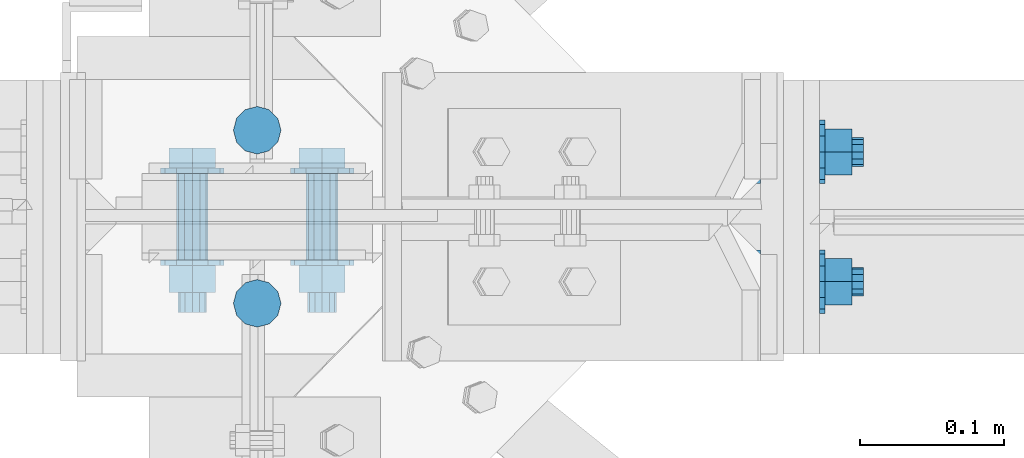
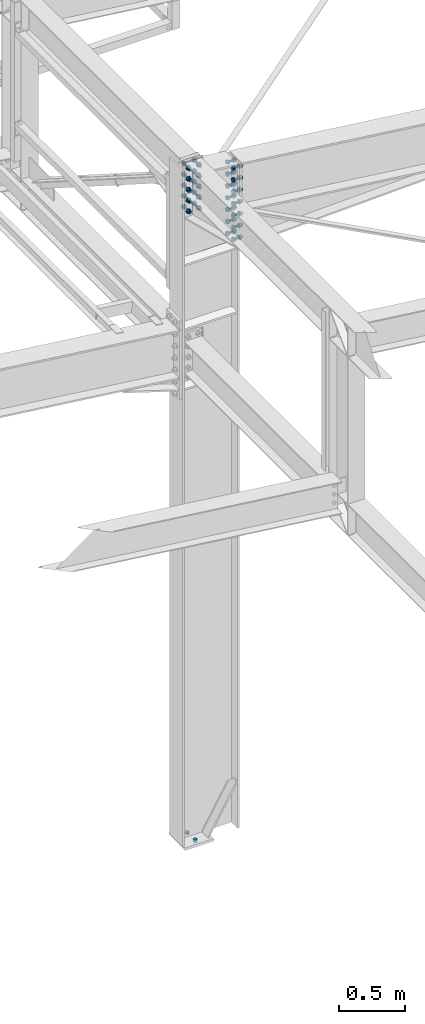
# One storey, part 153 of 3134: 3 mechanical fasteners, 3 elements without a shape of their own.
"""IFC2X3 building model written with IfcOpenShell, lengths in millimetres."""

from ifc_helpers import new_model, si_unit, frame, origin_with_axes, place, context, subcontext, project, spatial, faceted_brep, source, transform, mapped, material, type_object, element, aggregate, save


model = new_model("IFC2X3")

# Units and contexts
model_context = context("Model", 3, precision=1e-05, world=origin_with_axes())
body_context = subcontext(model_context, "Body", "Model", "MODEL_VIEW")
ifc_project = project(units=[si_unit("LENGTHUNIT", "METRE", prefix="MILLI"), si_unit("AREAUNIT", "SQUARE_METRE"), si_unit("VOLUMEUNIT", "CUBIC_METRE"), si_unit("MASSUNIT", "GRAM", prefix="KILO"), si_unit("TIMEUNIT", "SECOND"), si_unit("PLANEANGLEUNIT", "RADIAN"), si_unit("SOLIDANGLEUNIT", "STERADIAN"), si_unit("THERMODYNAMICTEMPERATUREUNIT", "DEGREE_CELSIUS"), si_unit("LUMINOUSINTENSITYUNIT", "LUMEN")], contexts=[model_context])

# Site, building, storey
site_placement = place(None, origin_with_axes())
site = spatial("IfcSite", under=ifc_project, at=site_placement, CompositionType="ELEMENT")
building_placement = place(site_placement, origin_with_axes())
building = spatial("IfcBuilding", under=site, at=building_placement, Name="Undefined", CompositionType="ELEMENT")
storey_placement = place(building_placement, origin_with_axes())
storey = spatial("IfcBuildingStorey", under=building, at=storey_placement, Name="Undefined", CompositionType="ELEMENT", Elevation=0.0)

# Assembly, mechanical fastener
assembly_1_placement = place(storey_placement, origin_with_axes())
assembly_1 = element("IfcElementAssembly", 1, at=assembly_1_placement, inside=storey, Name="IPE450", AssemblyPlace="NOTDEFINED", PredefinedType="RIGID_FRAME")
ifc_material_1 = material(Name="HR10.9")
mechanical_fastener_type = type_object("IfcMechanicalFastenerType", Name="Bolt assembly")
shared_shape_1 = source(origin_with_axes(), body_context, "Body", "Brep", [
    faceted_brep([(18.475208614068, -33.599999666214, 0.0), (9.23760430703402, -33.599999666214, 16.0), (-9.23760430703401, -33.599999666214, 16.0), (-18.475208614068, -33.599999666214, 2.2625605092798e-15), (-9.23760430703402, -33.599999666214, -16.0), (9.237604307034, -33.599999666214, -16.0), (9.237604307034, -19.7000000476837, -16.0), (-9.23760430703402, -19.7000000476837, -16.0), (-18.475208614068, -19.7000000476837, 2.2625605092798e-15), (-9.23760430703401, -19.7000000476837, 16.0), (9.23760430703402, -19.7000000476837, 16.0), (18.475208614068, -19.7000000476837, 0.0), (10.0, -19.7000000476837, 0.0), (8.66025403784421, -19.7000000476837, 5.0000000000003), (4.9999999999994, -19.7000000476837, 8.66025403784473), (-1.03633598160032e-12, -19.7000000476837, 10.0), (-5.00000000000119, -19.7000000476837, 8.6602540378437), (-8.66025403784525, -19.7000000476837, 4.99999999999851), (-10.0, -19.7000000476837, -2.07267196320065e-12), (-8.66025403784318, -19.7000000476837, -5.00000000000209), (-4.99999999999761, -19.7000000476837, -8.66025403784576), (3.09790571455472e-12, -19.7000000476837, -10.0), (5.00000000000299, -19.7000000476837, -8.66025403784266), (8.66025403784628, -19.7000000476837, -4.99999999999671), (8.66025403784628, 55.2999999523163, -4.99999999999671), (5.00000000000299, 55.2999999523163, -8.66025403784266), (3.09790571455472e-12, 55.2999999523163, -10.0), (-4.99999999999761, 55.2999999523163, -8.66025403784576), (-8.66025403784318, 55.2999999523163, -5.00000000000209), (-10.0, 55.2999999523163, -2.07267196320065e-12), (-8.66025403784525, 55.2999999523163, 4.99999999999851), (-5.00000000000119, 55.2999999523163, 8.6602540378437), (-1.03633598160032e-12, 55.2999999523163, 10.0), (4.9999999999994, 55.2999999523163, 8.66025403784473), (8.66025403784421, 55.2999999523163, 5.0000000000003), (10.0, 55.2999999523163, 0.0), (22.0, -19.7000000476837, 0.0), (19.0525588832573, -19.7000000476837, 11.0000000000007), (10.9999999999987, -19.7000000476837, 19.0525588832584), (-2.27993915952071e-12, -19.7000000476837, 22.0), (-11.0000000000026, -19.7000000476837, 19.0525588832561), (-19.0525588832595, -19.7000000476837, 10.9999999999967), (-22.0, -19.7000000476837, -4.55987831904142e-12), (-19.052558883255, -19.7000000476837, -11.0000000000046), (-10.9999999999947, -19.7000000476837, -19.0525588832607), (6.81539257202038e-12, -19.7000000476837, -22.0), (11.0000000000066, -19.7000000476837, -19.0525588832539), (19.0525588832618, -19.7000000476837, -10.9999999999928), (19.0525588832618, -16.0, -10.9999999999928), (11.0000000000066, -16.0, -19.0525588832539), (6.81539257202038e-12, -16.0, -22.0), (-10.9999999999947, -16.0, -19.0525588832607), (-19.052558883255, -16.0, -11.0000000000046), (-22.0, -16.0, -4.55987831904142e-12), (-19.0525588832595, -16.0, 10.9999999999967), (-11.0000000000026, -16.0, 19.0525588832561), (-2.27993915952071e-12, -16.0, 22.0), (10.9999999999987, -16.0, 19.0525588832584), (19.0525588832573, -16.0, 11.0000000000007), (22.0, -16.0, 0.0), (22.0, 25.0, 0.0), (19.0525588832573, 25.0, 11.0000000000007), (10.9999999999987, 25.0, 19.0525588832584), (-2.27993915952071e-12, 25.0, 22.0), (-11.0000000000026, 25.0, 19.0525588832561), (-19.0525588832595, 25.0, 10.9999999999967), (-22.0, 25.0, -4.55987831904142e-12), (-19.052558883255, 25.0, -11.0000000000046), (-10.9999999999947, 25.0, -19.0525588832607), (6.81539257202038e-12, 25.0, -22.0), (11.0000000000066, 25.0, -19.0525588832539), (19.0525588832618, 25.0, -10.9999999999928), (19.0525588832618, 28.7000000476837, -10.9999999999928), (11.0000000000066, 28.7000000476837, -19.0525588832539), (6.81539257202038e-12, 28.7000000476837, -22.0), (-10.9999999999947, 28.7000000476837, -19.0525588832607), (-19.052558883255, 28.7000000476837, -11.0000000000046), (-22.0, 28.7000000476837, -4.55987831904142e-12), (-19.0525588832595, 28.7000000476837, 10.9999999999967), (-11.0000000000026, 28.7000000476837, 19.0525588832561), (-2.27993915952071e-12, 28.7000000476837, 22.0), (10.9999999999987, 28.7000000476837, 19.0525588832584), (19.0525588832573, 28.7000000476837, 11.0000000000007), (22.0, 28.7000000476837, 0.0), (18.475208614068, 28.7000000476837, 0.0), (9.23760430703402, 28.7000000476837, 16.0), (-9.23760430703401, 28.7000000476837, 16.0), (-18.475208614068, 28.7000000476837, 2.2625605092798e-15), (-9.23760430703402, 28.7000000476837, -16.0), (9.237604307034, 28.7000000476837, -16.0), (9.237604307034, 47.2499992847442, -16.0), (-9.23760430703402, 47.2499992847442, -16.0), (-18.475208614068, 47.2499992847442, 2.2625605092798e-15), (-9.23760430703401, 47.2499992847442, 16.0), (9.23760430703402, 47.2499992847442, 16.0), (18.475208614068, 47.2499992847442, 0.0)], [[[0, 1, 2, 3, 4, 5]], [[6, 7, 8, 9, 10, 11]], [[0, 11, 10, 1]], [[1, 10, 9, 2]], [[2, 9, 8, 3]], [[3, 8, 7, 4]], [[4, 7, 6, 5]], [[5, 6, 11, 0]], [[12, 13, 14, 15, 16, 17, 18, 19, 20, 21, 22, 23]], [[24, 25, 26, 27, 28, 29, 30, 31, 32, 33, 34, 35]], [[12, 35, 34, 13]], [[13, 34, 33, 14]], [[14, 33, 32, 15]], [[15, 32, 31, 16]], [[16, 31, 30, 17]], [[17, 30, 29, 18]], [[18, 29, 28, 19]], [[19, 28, 27, 20]], [[20, 27, 26, 21]], [[21, 26, 25, 22]], [[22, 25, 24, 23]], [[23, 24, 35, 12]], [[36, 37, 38, 39, 40, 41, 42, 43, 44, 45, 46, 47]], [[48, 49, 50, 51, 52, 53, 54, 55, 56, 57, 58, 59]], [[36, 59, 58, 37]], [[37, 58, 57, 38]], [[38, 57, 56, 39]], [[39, 56, 55, 40]], [[40, 55, 54, 41]], [[41, 54, 53, 42]], [[42, 53, 52, 43]], [[43, 52, 51, 44]], [[44, 51, 50, 45]], [[45, 50, 49, 46]], [[46, 49, 48, 47]], [[47, 48, 59, 36]], [[60, 61, 62, 63, 64, 65, 66, 67, 68, 69, 70, 71]], [[72, 73, 74, 75, 76, 77, 78, 79, 80, 81, 82, 83]], [[60, 83, 82, 61]], [[61, 82, 81, 62]], [[62, 81, 80, 63]], [[63, 80, 79, 64]], [[64, 79, 78, 65]], [[65, 78, 77, 66]], [[66, 77, 76, 67]], [[67, 76, 75, 68]], [[68, 75, 74, 69]], [[69, 74, 73, 70]], [[70, 73, 72, 71]], [[71, 72, 83, 60]], [[84, 85, 86, 87, 88, 89]], [[90, 91, 92, 93, 94, 95]], [[84, 95, 94, 85]], [[85, 94, 93, 86]], [[86, 93, 92, 87]], [[87, 92, 91, 88]], [[88, 91, 90, 89]], [[89, 90, 95, 84]]]),
    faceted_brep([(11.0, -15.9, 0.0), (9.52627944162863, -15.9, 5.50000000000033), (5.49999999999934, -15.9, 9.5262794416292), (-1.13996957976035e-12, -15.9, 11.0), (-5.50000000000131, -15.9, 9.52627944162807), (-9.52627944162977, -15.9, 5.49999999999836), (-11.0, -15.9, -2.27993915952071e-12), (-9.5262794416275, -15.9, -5.5000000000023), (-5.49999999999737, -15.9, -9.52627944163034), (3.40769628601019e-12, -15.9, -11.0), (5.50000000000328, -15.9, -9.52627944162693), (9.52627944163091, -15.9, -5.49999999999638), (9.52627944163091, 0.0999999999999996, -5.49999999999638), (5.50000000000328, 0.0999999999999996, -9.52627944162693), (3.40769628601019e-12, 0.0999999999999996, -11.0), (-5.49999999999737, 0.0999999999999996, -9.52627944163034), (-9.5262794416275, 0.0999999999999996, -5.5000000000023), (-11.0, 0.0999999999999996, -2.27993915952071e-12), (-9.52627944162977, 0.0999999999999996, 5.49999999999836), (-5.50000000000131, 0.0999999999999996, 9.52627944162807), (-1.13996957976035e-12, 0.0999999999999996, 11.0), (5.49999999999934, 0.0999999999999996, 9.5262794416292), (9.52627944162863, 0.0999999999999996, 5.50000000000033), (11.0, 0.0999999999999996, 0.0), (11.0, -0.1, 0.0), (9.52627944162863, -0.1, 5.50000000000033), (5.49999999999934, -0.1, 9.5262794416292), (-1.13996957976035e-12, -0.1, 11.0), (-5.50000000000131, -0.1, 9.52627944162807), (-9.52627944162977, -0.1, 5.49999999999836), (-11.0, -0.1, -2.27993915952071e-12), (-9.5262794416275, -0.1, -5.5000000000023), (-5.49999999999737, -0.1, -9.52627944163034), (3.40769628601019e-12, -0.1, -11.0), (5.50000000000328, -0.1, -9.52627944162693), (9.52627944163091, -0.1, -5.49999999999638), (9.52627944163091, 25.0, -5.49999999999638), (5.50000000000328, 25.0, -9.52627944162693), (3.40769628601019e-12, 25.0, -11.0), (-5.49999999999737, 25.0, -9.52627944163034), (-9.5262794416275, 25.0, -5.5000000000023), (-11.0, 25.0, -2.27993915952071e-12), (-9.52627944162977, 25.0, 5.49999999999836), (-5.50000000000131, 25.0, 9.52627944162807), (-1.13996957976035e-12, 25.0, 11.0), (5.49999999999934, 25.0, 9.5262794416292), (9.52627944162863, 25.0, 5.50000000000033), (11.0, 25.0, 0.0)], [[[0, 1, 2, 3, 4, 5, 6, 7, 8, 9, 10, 11]], [[12, 13, 14, 15, 16, 17, 18, 19, 20, 21, 22, 23]], [[0, 23, 22, 1]], [[1, 22, 21, 2]], [[2, 21, 20, 3]], [[3, 20, 19, 4]], [[4, 19, 18, 5]], [[5, 18, 17, 6]], [[6, 17, 16, 7]], [[7, 16, 15, 8]], [[8, 15, 14, 9]], [[9, 14, 13, 10]], [[10, 13, 12, 11]], [[11, 12, 23, 0]], [[24, 25, 26, 27, 28, 29, 30, 31, 32, 33, 34, 35]], [[36, 37, 38, 39, 40, 41, 42, 43, 44, 45, 46, 47]], [[24, 47, 46, 25]], [[25, 46, 45, 26]], [[26, 45, 44, 27]], [[27, 44, 43, 28]], [[28, 43, 42, 29]], [[29, 42, 41, 30]], [[30, 41, 40, 31]], [[31, 40, 39, 32]], [[32, 39, 38, 33]], [[33, 38, 37, 34]], [[34, 37, 36, 35]], [[35, 36, 47, 24]]]),
])
mechanical_fastener_1_placement = place(assembly_1_placement, frame((56240.0, 19450.0, 5711.36541521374), z_axis=(0.0, -1.0, 0.0), x_axis=(0.0, 0.0, -1.0)))
mechanical_fastener_1 = element("IfcMechanicalFastener", 2, at=mechanical_fastener_1_placement, type_object=mechanical_fastener_type, material=ifc_material_1, Name="Bolt assembly", NominalDiameter=20.0, NominalLength=75.0, context=body_context, shape_type="MappedRepresentation", body=[
    mapped(shared_shape_1, transform((0.0, 0.0, -45.0))),
    mapped(shared_shape_1, transform((0.0, 0.0, 45.0))),
    mapped(shared_shape_1, transform((110.0, 0.0, -45.0))),
    mapped(shared_shape_1, transform((110.0, 0.0, 45.0))),
    mapped(shared_shape_1, transform((220.0, 0.0, -45.0))),
    mapped(shared_shape_1, transform((220.0, 0.0, 45.0))),
    mapped(shared_shape_1, transform((330.0, 0.0, -45.0))),
    mapped(shared_shape_1, transform((330.0, 0.0, 45.0))),
    mapped(shared_shape_1, transform((440.0, 0.0, -45.0))),
    mapped(shared_shape_1, transform((440.0, 0.0, 45.0))),
    mapped(shared_shape_1, transform((550.0, 0.0, -45.0))),
    mapped(shared_shape_1, transform((550.0, 0.0, 45.0))),
    mapped(shared_shape_1, transform((660.0, 0.0, -45.0))),
    mapped(shared_shape_1, transform((660.0, 0.0, 45.0))),
])
aggregate(assembly_1, [mechanical_fastener_1])

assembly_2_placement = place(storey_placement, origin_with_axes())
assembly_2 = element("IfcElementAssembly", 3, at=assembly_2_placement, inside=storey, Name="300", AssemblyPlace="NOTDEFINED", PredefinedType="RIGID_FRAME")
shared_shape_2 = source(origin_with_axes(), body_context, "Body", "Brep", [
    faceted_brep([(18.475208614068, -47.6999994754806, 0.0), (9.23760430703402, -47.6999994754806, 16.0), (-9.23760430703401, -47.6999994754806, 16.0), (-18.475208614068, -47.6999994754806, 2.2625605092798e-15), (-9.23760430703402, -47.6999994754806, -16.0), (9.237604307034, -47.6999994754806, -16.0), (9.237604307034, -33.7999998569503, -16.0), (-9.23760430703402, -33.7999998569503, -16.0), (-18.475208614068, -33.7999998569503, 2.2625605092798e-15), (-9.23760430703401, -33.7999998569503, 16.0), (9.23760430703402, -33.7999998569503, 16.0), (18.475208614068, -33.7999998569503, 0.0), (10.0, -33.7999998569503, 0.0), (8.66025403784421, -33.7999998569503, 5.0000000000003), (4.9999999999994, -33.7999998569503, 8.66025403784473), (-1.03633598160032e-12, -33.7999998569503, 10.0), (-5.00000000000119, -33.7999998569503, 8.6602540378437), (-8.66025403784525, -33.7999998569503, 4.99999999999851), (-10.0, -33.7999998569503, -2.07267196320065e-12), (-8.66025403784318, -33.7999998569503, -5.00000000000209), (-4.99999999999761, -33.7999998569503, -8.66025403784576), (3.09790571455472e-12, -33.7999998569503, -10.0), (5.00000000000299, -33.7999998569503, -8.66025403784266), (8.66025403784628, -33.7999998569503, -4.99999999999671), (8.66025403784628, 66.2000001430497, -4.99999999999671), (5.00000000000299, 66.2000001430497, -8.66025403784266), (3.09790571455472e-12, 66.2000001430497, -10.0), (-4.99999999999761, 66.2000001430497, -8.66025403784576), (-8.66025403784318, 66.2000001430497, -5.00000000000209), (-10.0, 66.2000001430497, -2.07267196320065e-12), (-8.66025403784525, 66.2000001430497, 4.99999999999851), (-5.00000000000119, 66.2000001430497, 8.6602540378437), (-1.03633598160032e-12, 66.2000001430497, 10.0), (4.9999999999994, 66.2000001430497, 8.66025403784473), (8.66025403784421, 66.2000001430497, 5.0000000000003), (10.0, 66.2000001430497, 0.0), (22.0, -33.7999998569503, 0.0), (19.0525588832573, -33.7999998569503, 11.0000000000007), (10.9999999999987, -33.7999998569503, 19.0525588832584), (-2.27993915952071e-12, -33.7999998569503, 22.0), (-11.0000000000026, -33.7999998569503, 19.0525588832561), (-19.0525588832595, -33.7999998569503, 10.9999999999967), (-22.0, -33.7999998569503, -4.55987831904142e-12), (-19.052558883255, -33.7999998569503, -11.0000000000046), (-10.9999999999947, -33.7999998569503, -19.0525588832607), (6.81539257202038e-12, -33.7999998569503, -22.0), (11.0000000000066, -33.7999998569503, -19.0525588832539), (19.0525588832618, -33.7999998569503, -10.9999999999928), (19.0525588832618, -30.0999998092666, -10.9999999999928), (11.0000000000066, -30.0999998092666, -19.0525588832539), (6.81539257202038e-12, -30.0999998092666, -22.0), (-10.9999999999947, -30.0999998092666, -19.0525588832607), (-19.052558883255, -30.0999998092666, -11.0000000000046), (-22.0, -30.0999998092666, -4.55987831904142e-12), (-19.0525588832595, -30.0999998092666, 10.9999999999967), (-11.0000000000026, -30.0999998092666, 19.0525588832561), (-2.27993915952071e-12, -30.0999998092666, 22.0), (10.9999999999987, -30.0999998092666, 19.0525588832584), (19.0525588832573, -30.0999998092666, 11.0000000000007), (22.0, -30.0999998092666, 0.0), (22.0, 30.0999999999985, 0.0), (19.0525588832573, 30.0999999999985, 11.0000000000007), (10.9999999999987, 30.0999999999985, 19.0525588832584), (-2.27993915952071e-12, 30.0999999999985, 22.0), (-11.0000000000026, 30.0999999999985, 19.0525588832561), (-19.0525588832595, 30.0999999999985, 10.9999999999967), (-22.0, 30.0999999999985, -4.55987831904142e-12), (-19.052558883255, 30.0999999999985, -11.0000000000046), (-10.9999999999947, 30.0999999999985, -19.0525588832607), (6.81539257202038e-12, 30.0999999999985, -22.0), (11.0000000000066, 30.0999999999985, -19.0525588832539), (19.0525588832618, 30.0999999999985, -10.9999999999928), (19.0525588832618, 33.8000000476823, -10.9999999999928), (11.0000000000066, 33.8000000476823, -19.0525588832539), (6.81539257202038e-12, 33.8000000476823, -22.0), (-10.9999999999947, 33.8000000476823, -19.0525588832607), (-19.052558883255, 33.8000000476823, -11.0000000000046), (-22.0, 33.8000000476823, -4.55987831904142e-12), (-19.0525588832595, 33.8000000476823, 10.9999999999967), (-11.0000000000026, 33.8000000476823, 19.0525588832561), (-2.27993915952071e-12, 33.8000000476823, 22.0), (10.9999999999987, 33.8000000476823, 19.0525588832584), (19.0525588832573, 33.8000000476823, 11.0000000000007), (22.0, 33.8000000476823, 0.0), (18.475208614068, 33.8000000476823, 0.0), (9.23760430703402, 33.8000000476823, 16.0), (-9.23760430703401, 33.8000000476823, 16.0), (-18.475208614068, 33.8000000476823, 2.2625605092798e-15), (-9.23760430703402, 33.8000000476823, -16.0), (9.237604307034, 33.8000000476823, -16.0), (9.237604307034, 52.3499992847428, -16.0), (-9.23760430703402, 52.3499992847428, -16.0), (-18.475208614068, 52.3499992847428, 2.2625605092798e-15), (-9.23760430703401, 52.3499992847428, 16.0), (9.23760430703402, 52.3499992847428, 16.0), (18.475208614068, 52.3499992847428, 0.0)], [[[0, 1, 2, 3, 4, 5]], [[6, 7, 8, 9, 10, 11]], [[0, 11, 10, 1]], [[1, 10, 9, 2]], [[2, 9, 8, 3]], [[3, 8, 7, 4]], [[4, 7, 6, 5]], [[5, 6, 11, 0]], [[12, 13, 14, 15, 16, 17, 18, 19, 20, 21, 22, 23]], [[24, 25, 26, 27, 28, 29, 30, 31, 32, 33, 34, 35]], [[12, 35, 34, 13]], [[13, 34, 33, 14]], [[14, 33, 32, 15]], [[15, 32, 31, 16]], [[16, 31, 30, 17]], [[17, 30, 29, 18]], [[18, 29, 28, 19]], [[19, 28, 27, 20]], [[20, 27, 26, 21]], [[21, 26, 25, 22]], [[22, 25, 24, 23]], [[23, 24, 35, 12]], [[36, 37, 38, 39, 40, 41, 42, 43, 44, 45, 46, 47]], [[48, 49, 50, 51, 52, 53, 54, 55, 56, 57, 58, 59]], [[36, 59, 58, 37]], [[37, 58, 57, 38]], [[38, 57, 56, 39]], [[39, 56, 55, 40]], [[40, 55, 54, 41]], [[41, 54, 53, 42]], [[42, 53, 52, 43]], [[43, 52, 51, 44]], [[44, 51, 50, 45]], [[45, 50, 49, 46]], [[46, 49, 48, 47]], [[47, 48, 59, 36]], [[60, 61, 62, 63, 64, 65, 66, 67, 68, 69, 70, 71]], [[72, 73, 74, 75, 76, 77, 78, 79, 80, 81, 82, 83]], [[60, 83, 82, 61]], [[61, 82, 81, 62]], [[62, 81, 80, 63]], [[63, 80, 79, 64]], [[64, 79, 78, 65]], [[65, 78, 77, 66]], [[66, 77, 76, 67]], [[67, 76, 75, 68]], [[68, 75, 74, 69]], [[69, 74, 73, 70]], [[70, 73, 72, 71]], [[71, 72, 83, 60]], [[84, 85, 86, 87, 88, 89]], [[90, 91, 92, 93, 94, 95]], [[84, 95, 94, 85]], [[85, 94, 93, 86]], [[86, 93, 92, 87]], [[87, 92, 91, 88]], [[88, 91, 90, 89]], [[89, 90, 95, 84]]]),
    faceted_brep([(11.0, -5.09999980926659, 0.0), (9.52627944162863, -5.09999980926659, 5.50000000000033), (5.49999999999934, -5.09999980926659, 9.5262794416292), (-1.13996957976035e-12, -5.09999980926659, 11.0), (-5.50000000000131, -5.09999980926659, 9.52627944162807), (-9.52627944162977, -5.09999980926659, 5.49999999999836), (-11.0, -5.09999980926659, -2.27993915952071e-12), (-9.5262794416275, -5.09999980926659, -5.5000000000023), (-5.49999999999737, -5.09999980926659, -9.52627944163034), (3.40769628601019e-12, -5.09999980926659, -11.0), (5.50000000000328, -5.09999980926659, -9.52627944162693), (9.52627944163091, -5.09999980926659, -5.49999999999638), (9.52627944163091, 5.09999999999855, -5.49999999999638), (5.50000000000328, 5.09999999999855, -9.52627944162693), (3.40769628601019e-12, 5.09999999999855, -11.0), (-5.49999999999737, 5.09999999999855, -9.52627944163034), (-9.5262794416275, 5.09999999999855, -5.5000000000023), (-11.0, 5.09999999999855, -2.27993915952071e-12), (-9.52627944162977, 5.09999999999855, 5.49999999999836), (-5.50000000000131, 5.09999999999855, 9.52627944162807), (-1.13996957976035e-12, 5.09999999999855, 11.0), (5.49999999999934, 5.09999999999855, 9.5262794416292), (9.52627944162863, 5.09999999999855, 5.50000000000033), (11.0, 5.09999999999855, 0.0), (11.0, -29.9999998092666, 0.0), (9.52627944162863, -29.9999998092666, 5.50000000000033), (5.49999999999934, -29.9999998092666, 9.5262794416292), (-1.13996957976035e-12, -29.9999998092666, 11.0), (-5.50000000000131, -29.9999998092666, 9.52627944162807), (-9.52627944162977, -29.9999998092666, 5.49999999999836), (-11.0, -29.9999998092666, -2.27993915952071e-12), (-9.5262794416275, -29.9999998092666, -5.5000000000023), (-5.49999999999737, -29.9999998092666, -9.52627944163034), (3.40769628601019e-12, -29.9999998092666, -11.0), (5.50000000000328, -29.9999998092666, -9.52627944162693), (9.52627944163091, -29.9999998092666, -5.49999999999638), (9.52627944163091, -4.99999980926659, -5.49999999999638), (5.50000000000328, -4.99999980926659, -9.52627944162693), (3.40769628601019e-12, -4.99999980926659, -11.0), (-5.49999999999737, -4.99999980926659, -9.52627944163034), (-9.5262794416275, -4.99999980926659, -5.5000000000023), (-11.0, -4.99999980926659, -2.27993915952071e-12), (-9.52627944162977, -4.99999980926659, 5.49999999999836), (-5.50000000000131, -4.99999980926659, 9.52627944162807), (-1.13996957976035e-12, -4.99999980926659, 11.0), (5.49999999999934, -4.99999980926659, 9.5262794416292), (9.52627944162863, -4.99999980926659, 5.50000000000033), (11.0, -4.99999980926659, 0.0), (11.0, 4.99999999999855, 0.0), (9.52627944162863, 4.99999999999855, 5.50000000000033), (5.49999999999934, 4.99999999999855, 9.5262794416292), (-1.13996957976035e-12, 4.99999999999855, 11.0), (-5.50000000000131, 4.99999999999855, 9.52627944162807), (-9.52627944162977, 4.99999999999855, 5.49999999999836), (-11.0, 4.99999999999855, -2.27993915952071e-12), (-9.5262794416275, 4.99999999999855, -5.5000000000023), (-5.49999999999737, 4.99999999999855, -9.52627944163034), (3.40769628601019e-12, 4.99999999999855, -11.0), (5.50000000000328, 4.99999999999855, -9.52627944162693), (9.52627944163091, 4.99999999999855, -5.49999999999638), (9.52627944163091, 30.0999999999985, -5.49999999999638), (5.50000000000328, 30.0999999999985, -9.52627944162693), (3.40769628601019e-12, 30.0999999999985, -11.0), (-5.49999999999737, 30.0999999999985, -9.52627944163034), (-9.5262794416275, 30.0999999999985, -5.5000000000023), (-11.0, 30.0999999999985, -2.27993915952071e-12), (-9.52627944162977, 30.0999999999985, 5.49999999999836), (-5.50000000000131, 30.0999999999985, 9.52627944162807), (-1.13996957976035e-12, 30.0999999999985, 11.0), (5.49999999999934, 30.0999999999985, 9.5262794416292), (9.52627944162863, 30.0999999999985, 5.50000000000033), (11.0, 30.0999999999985, 0.0)], [[[0, 1, 2, 3, 4, 5, 6, 7, 8, 9, 10, 11]], [[12, 13, 14, 15, 16, 17, 18, 19, 20, 21, 22, 23]], [[0, 23, 22, 1]], [[1, 22, 21, 2]], [[2, 21, 20, 3]], [[3, 20, 19, 4]], [[4, 19, 18, 5]], [[5, 18, 17, 6]], [[6, 17, 16, 7]], [[7, 16, 15, 8]], [[8, 15, 14, 9]], [[9, 14, 13, 10]], [[10, 13, 12, 11]], [[11, 12, 23, 0]], [[24, 25, 26, 27, 28, 29, 30, 31, 32, 33, 34, 35]], [[36, 37, 38, 39, 40, 41, 42, 43, 44, 45, 46, 47]], [[24, 47, 46, 25]], [[25, 46, 45, 26]], [[26, 45, 44, 27]], [[27, 44, 43, 28]], [[28, 43, 42, 29]], [[29, 42, 41, 30]], [[30, 41, 40, 31]], [[31, 40, 39, 32]], [[32, 39, 38, 33]], [[33, 38, 37, 34]], [[34, 37, 36, 35]], [[35, 36, 47, 24]], [[48, 49, 50, 51, 52, 53, 54, 55, 56, 57, 58, 59]], [[60, 61, 62, 63, 64, 65, 66, 67, 68, 69, 70, 71]], [[48, 71, 70, 49]], [[49, 70, 69, 50]], [[50, 69, 68, 51]], [[51, 68, 67, 52]], [[52, 67, 66, 53]], [[53, 66, 65, 54]], [[54, 65, 64, 55]], [[55, 64, 63, 56]], [[56, 63, 62, 57]], [[57, 62, 61, 58]], [[58, 61, 60, 59]], [[59, 60, 71, 48]]]),
])
mechanical_fastener_2_placement = place(assembly_2_placement, frame((55875.0, 19450.0000000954, 5841.5), z_axis=(-1.0, 0.0, 0.0), x_axis=(0.0, 0.0, -1.0)))
mechanical_fastener_2 = element("IfcMechanicalFastener", 4, at=mechanical_fastener_2_placement, type_object=mechanical_fastener_type, material=ifc_material_1, Name="Bolt assembly", NominalDiameter=20.0, NominalLength=100.0, context=body_context, shape_type="MappedRepresentation", body=[
    mapped(shared_shape_2, transform((0.0, 0.0, -45.0))),
    mapped(shared_shape_2, transform((100.0, 0.0, -45.0))),
    mapped(shared_shape_2, transform((200.0, 0.0, -45.0))),
    mapped(shared_shape_2, transform((300.0, 0.0, -45.0))),
    mapped(shared_shape_2, transform((400.0, 0.0, -45.0))),
    mapped(shared_shape_2, transform((0.0, 0.0, 45.0))),
    mapped(shared_shape_2, transform((100.0, 0.0, 45.0))),
    mapped(shared_shape_2, transform((200.0, 0.0, 45.0))),
    mapped(shared_shape_2, transform((300.0, 0.0, 45.0))),
    mapped(shared_shape_2, transform((400.0, 0.0, 45.0))),
])
aggregate(assembly_2, [mechanical_fastener_2])

assembly_3_placement = place(storey_placement, origin_with_axes())
assembly_3 = element("IfcElementAssembly", 5, at=assembly_3_placement, inside=storey, Name="IPE500", AssemblyPlace="NOTDEFINED", PredefinedType="RIGID_FRAME")
ifc_material_2 = material(Name="8.8")
shared_shape_3 = source(origin_with_axes(), body_context, "Body", "Brep", [
    faceted_brep([(16.5, -25.0, 0.0), (14.289419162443, -25.0, 8.25000000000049), (8.24999999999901, -25.0, 14.2894191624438), (-1.70995436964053e-12, -25.0, 16.5), (-8.25000000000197, -25.0, 14.2894191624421), (-14.2894191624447, -25.0, 8.24999999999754), (-16.5, -25.0, -3.41990873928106e-12), (-14.2894191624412, -25.0, -8.25000000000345), (-8.24999999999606, -25.0, -14.2894191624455), (5.11154442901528e-12, -25.0, -16.5), (8.25000000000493, -25.0, -14.2894191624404), (14.2894191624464, -25.0, -8.24999999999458), (14.2894191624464, 0.1, -8.24999999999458), (8.25000000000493, 0.1, -14.2894191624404), (5.11154442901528e-12, 0.1, -16.5), (-8.24999999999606, 0.1, -14.2894191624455), (-14.2894191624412, 0.1, -8.25000000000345), (-16.5, 0.1, -3.41990873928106e-12), (-14.2894191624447, 0.1, 8.24999999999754), (-8.25000000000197, 0.1, 14.2894191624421), (-1.70995436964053e-12, 0.1, 16.5), (8.24999999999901, 0.1, 14.2894191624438), (14.289419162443, 0.1, 8.25000000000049), (16.5, 0.1, 0.0)], [[[0, 1, 2, 3, 4, 5, 6, 7, 8, 9, 10, 11]], [[12, 13, 14, 15, 16, 17, 18, 19, 20, 21, 22, 23]], [[0, 23, 22, 1]], [[1, 22, 21, 2]], [[2, 21, 20, 3]], [[3, 20, 19, 4]], [[4, 19, 18, 5]], [[5, 18, 17, 6]], [[6, 17, 16, 7]], [[7, 16, 15, 8]], [[8, 15, 14, 9]], [[9, 14, 13, 10]], [[10, 13, 12, 11]], [[11, 12, 23, 0]]]),
])
mechanical_fastener_3_placement = place(assembly_3_placement, frame((56355.0, 19450.0000000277, -375.0), z_axis=(0.0, 1.0, 0.0), x_axis=(-1.0, 0.0, 0.0)))
mechanical_fastener_3 = element("IfcMechanicalFastener", 6, at=mechanical_fastener_3_placement, type_object=mechanical_fastener_type, material=ifc_material_2, Name="Bolt assembly", NominalDiameter=30.0, NominalLength=25.0, context=body_context, shape_type="MappedRepresentation", body=[
    mapped(shared_shape_3, transform((480.0, 0.0, -60.0))),
    mapped(shared_shape_3, transform((480.0, 0.0, 60.0))),
])
aggregate(assembly_3, [mechanical_fastener_3])

save(model, "model.ifc")
